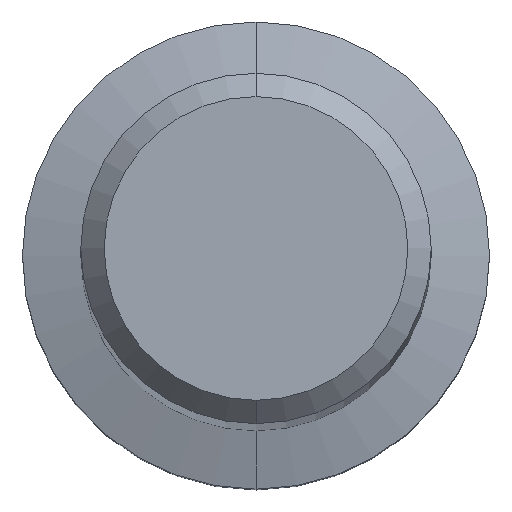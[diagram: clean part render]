
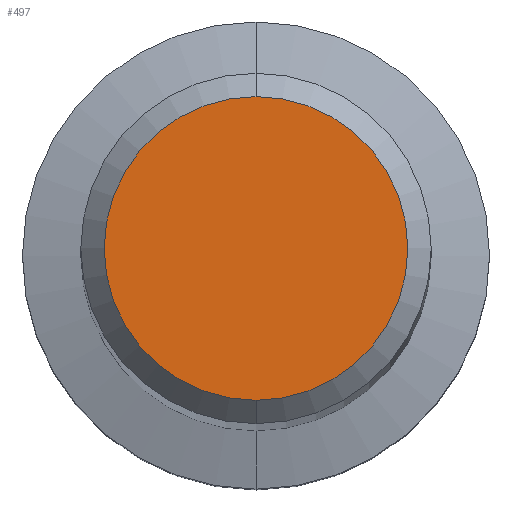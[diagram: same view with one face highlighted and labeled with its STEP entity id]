
A CAD part, top view. The second image highlights one B-rep face of the part: STEP entity #497.
In plain terms, the highlighted planar face has unit normal (0, 0, 1).
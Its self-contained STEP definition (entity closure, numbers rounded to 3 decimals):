
#215=VERTEX_POINT('',#574);
#465=VERTEX_POINT('',#851);
#497=ADVANCED_FACE('',(#886),#887,.T.);
#505=EDGE_CURVE('',#215,#465,#896,.T.);
#517=EDGE_CURVE('',#465,#215,#909,.T.);
#574=CARTESIAN_POINT('',(0.0,2.6,0.0));
#851=CARTESIAN_POINT('',(0.,-2.6,0.0));
#886=FACE_OUTER_BOUND('',#1559,.T.);
#887=PLANE('',#1560);
#896=CIRCLE('',#1571,2.6);
#909=CIRCLE('',#1613,2.6);
#1559=EDGE_LOOP('',(#2031,#2032));
#1560=AXIS2_PLACEMENT_3D('',#2033,#2034,#2035);
#1571=AXIS2_PLACEMENT_3D('',#2047,#2048,#2049);
#1613=AXIS2_PLACEMENT_3D('',#2061,#2062,#2063);
#2031=ORIENTED_EDGE('',*,*,#505,.F.);
#2032=ORIENTED_EDGE('',*,*,#517,.F.);
#2033=CARTESIAN_POINT('',(0.0,1.3,0.0));
#2034=DIRECTION('',(-0.0,0.0,1.0));
#2035=DIRECTION('',(0.0,-1.0,0.0));
#2047=CARTESIAN_POINT('',(0.0,0.0,0.0));
#2048=DIRECTION('',(0.0,0.0,-1.0));
#2049=DIRECTION('',(0.0,1.0,0.0));
#2061=CARTESIAN_POINT('',(0.0,0.0,0.0));
#2062=DIRECTION('',(0.0,0.0,-1.0));
#2063=DIRECTION('',(0.0,1.0,0.0));
